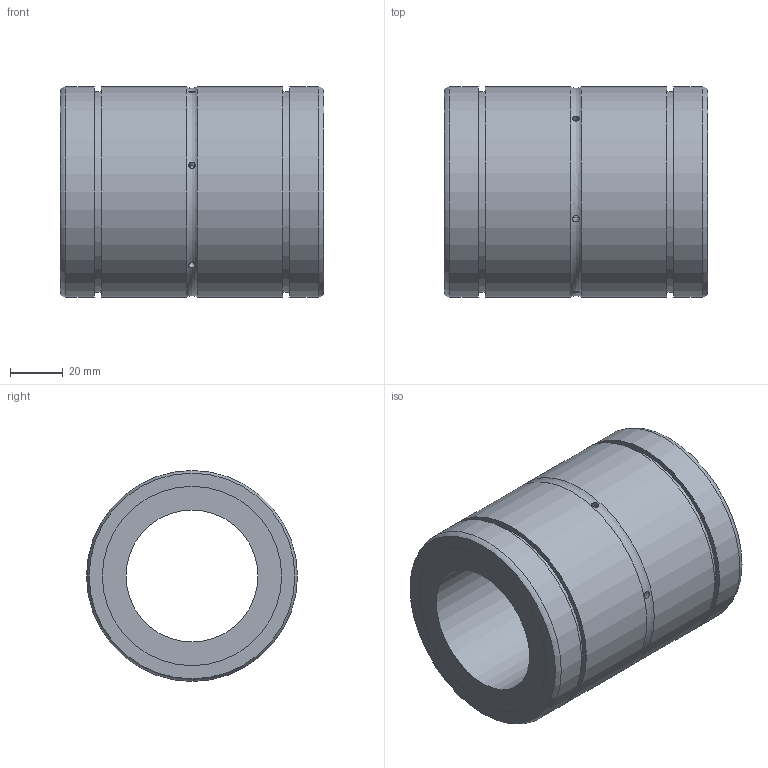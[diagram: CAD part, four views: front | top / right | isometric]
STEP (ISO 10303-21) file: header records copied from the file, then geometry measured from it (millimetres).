
FILE_DESCRIPTION((''),'2;1');
FILE_NAME('D:\製品 (図面)\カタログ用3D\リニアベアリング関連\STEP形式\L-OH\L50-OH.stp','2010-06-04T09:32:12',('Tsuchiya'),(''),'Autodesk Inventor 10','Autodesk Inventor 10','');
FILE_SCHEMA(('AUTOMOTIVE_DESIGN { 1 0 10303 214 1 1 1 1 }'));
Length unit declared in the file: millimetre
Products named in the file (1): L50-OH
Bounding box: 100 x 80 x 80 mm (x, y, z)
Volume: 302321 mm3; surface area: 48819.9 mm2
Topology: 1 solids, 1 shells, 32 faces, 56 edges, 38 vertices
Faces by surface type: cylinder 15, plane 8, bspline 7, torus 2
Full cylindrical faces by diameter (mm): 50 x1, 68 x2, 76 x2, 80 x4
Entity records: 1379 total; most frequent: CARTESIAN_POINT 869, DIRECTION 92, ORIENTED_EDGE 64, EDGE_LOOP 64, AXIS2_PLACEMENT_3D 46, VERTEX_POINT 32, EDGE_CURVE 32, FACE_OUTER_BOUND 32
